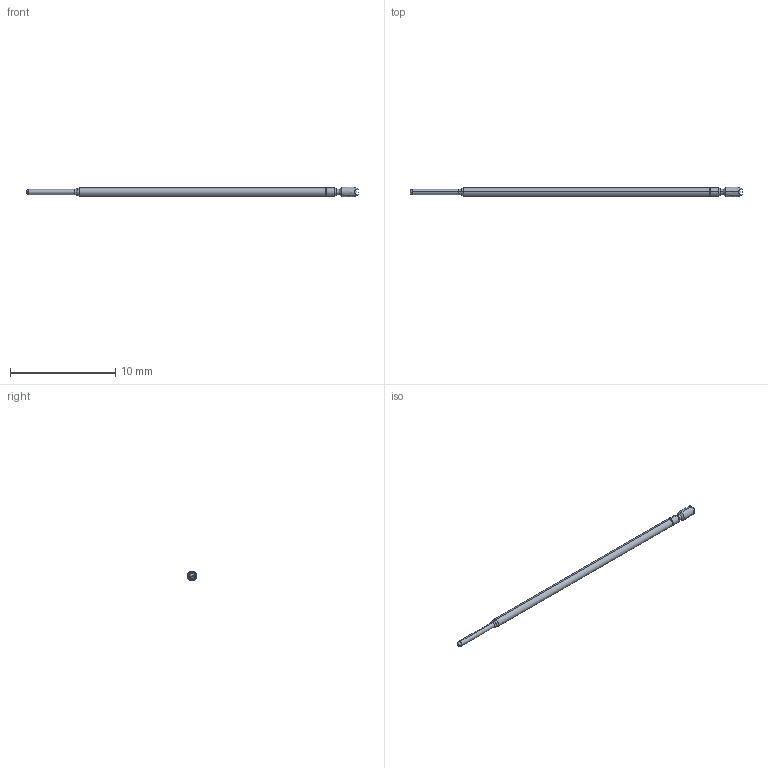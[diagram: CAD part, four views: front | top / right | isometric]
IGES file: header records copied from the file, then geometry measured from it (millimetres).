
Start section: SolidWorks IGES file using analytic representation for surfaces
Global section: file name: C:\Documents and Settings\mrumschlag\Desktop\changes\new\test\H FULL.IGS; native system: SolidWorks 2011; preprocessor: SolidWorks 2011; author: mrumschlag; date: 110630.142725; units: inch
Bounding box: 31.58 x 0.89 x 0.89 mm (x, y, z)
Surface area: 73.1 mm2 (no closed solid volume)
Topology: 0 solids, 0 shells, 55 faces, 266 edges, 264 vertices
Faces by surface type: bspline 37, revolution 18
